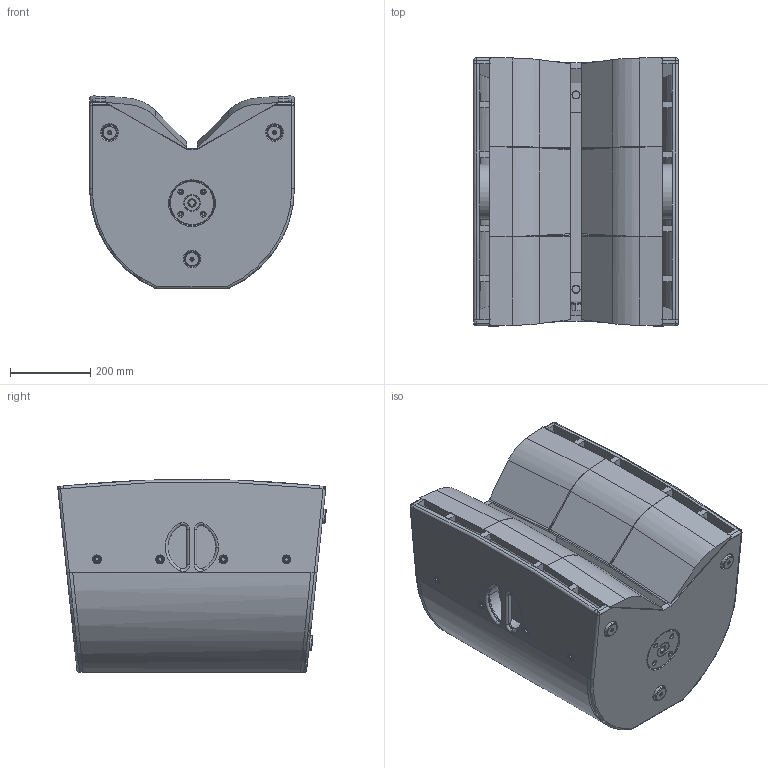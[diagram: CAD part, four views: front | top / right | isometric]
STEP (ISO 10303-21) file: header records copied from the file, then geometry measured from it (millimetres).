
FILE_DESCRIPTION (( 'STEP AP203' ), '1' );
FILE_NAME ('Seeburg_G3.STEP', '2012-10-15T13:06:54', ( 'Fabian' ), ( '' ), 'SwSTEP 2.0', 'SolidWorks 2009', '' );
FILE_SCHEMA (( 'CONFIG_CONTROL_DESIGN' ));
Length unit declared in the file: millimetre
Products named in the file (2): Seeburg_G3; G3
Assembly tree (1 placements, depth 2):
  Seeburg_G3
    G3
Bounding box: 512 x 671.21 x 482.64 mm (x, y, z)
Surface area: 3816506.1 mm2 (no closed solid volume)
Topology: 0 solids, 33 shells, 820 faces, 1969 edges, 1238 vertices
Faces by surface type: plane 350, cylinder 283, cone 122, torus 60, sphere 5
Entity records: 27869 total; most frequent: CARTESIAN_POINT 8329, DIRECTION 4204, ORIENTED_EDGE 3922, EDGE_CURVE 1963, AXIS2_PLACEMENT_3D 1586, VERTEX_POINT 1234, VECTOR 1032, LINE 1032
